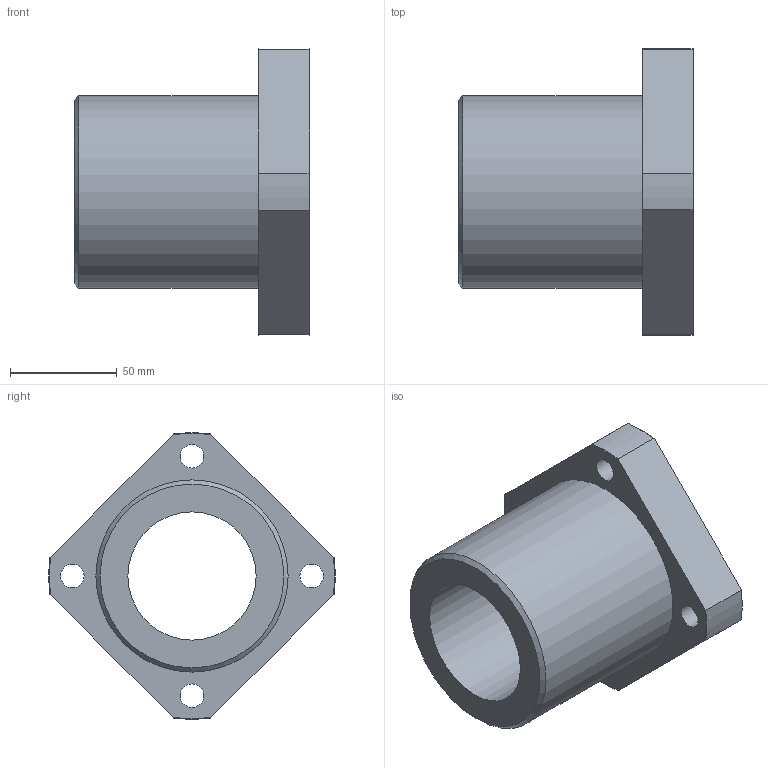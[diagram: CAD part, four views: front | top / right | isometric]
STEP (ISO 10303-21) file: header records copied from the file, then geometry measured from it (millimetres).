
FILE_DESCRIPTION(('STEP AP203'),'1');
FILE_NAME('//192.168.1.1/share/s-4 技術開発/s-4-4_CAD/s-4-4-3_見直し済み/PBC LINEAR修正済み/3D途中/SFPJ/SFPJ/SFPJ60.step','2022-03-24T05:46:25',(' '),(' '),'Spatial InterOp 3D',' ',' ');
FILE_SCHEMA(('CONFIG_CONTROL_DESIGN'));
Length unit declared in the file: millimetre
Products named in the file (1): 1
Bounding box: 110 x 133.88 x 133.88 mm (x, y, z)
Volume: 483873.7 mm3; surface area: 73881.2 mm2
Topology: 1 solids, 1 shells, 34 faces, 85 edges, 58 vertices
Faces by surface type: cylinder 14, plane 11, cone 9
Full cylindrical faces by diameter (mm): 11 x4, 17 x4, 60 x1, 90 x1
Entity records: 1018 total; most frequent: CARTESIAN_POINT 205, DIRECTION 160, ORIENTED_EDGE 138, AXIS2_PLACEMENT_3D 72, EDGE_CURVE 69, EDGE_LOOP 60, VERTEX_POINT 53, FACE_OUTER_BOUND 44
